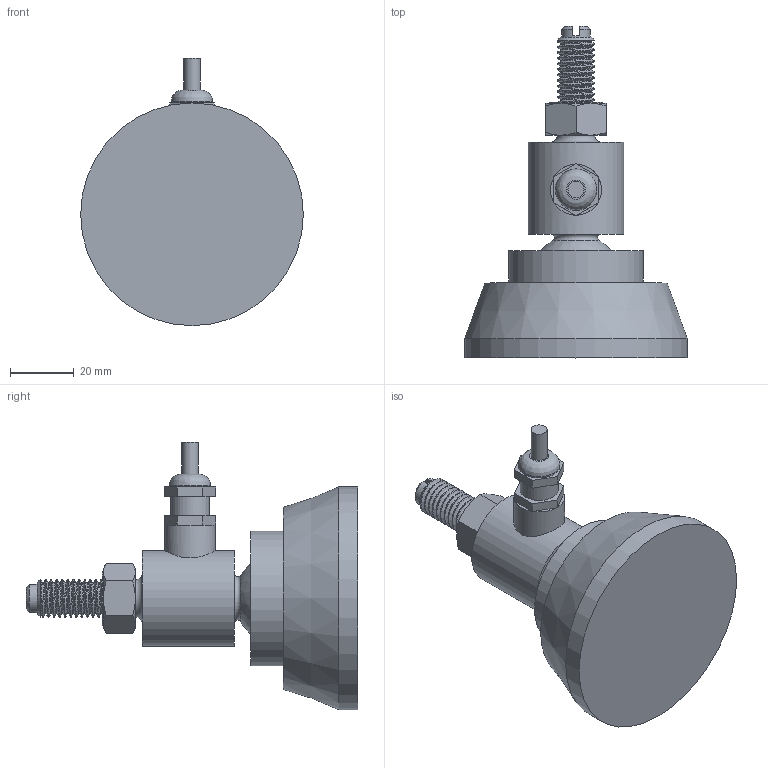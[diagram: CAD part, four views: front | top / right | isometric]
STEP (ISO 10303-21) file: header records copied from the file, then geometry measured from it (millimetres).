
FILE_DESCRIPTION(/* description */ (''),/* implementation_level */ '2;1');
FILE_NAME(/* name */ 'C:/Users/fardi/Dropbox/Anyload/Load Cell Models/3D Drawing/106/106MH-F/106MH-F-(0.5-1)t v3.step',/* time_stamp */ '2020-01-31T11:56:07-08:00',/* author */ (''),/* organization */ (''),/* preprocessor_version */ 'ST-DEVELOPER v18',/* originating_system */ 'Autodesk Translation Framework v8.12.0.6',/* authorisation */ '');
FILE_SCHEMA (('AUTOMOTIVE_DESIGN { 1 0 10303 214 3 1 1 }'));
Length unit declared in the file: millimetre
Products named in the file (3): 106MH-F-(0.5-1)t; 90591A181; Connector
Assembly tree (2 placements, depth 2):
  106MH-F-(0.5-1)t
    90591A181
    Connector
Bounding box: 70 x 104.3 x 84.03 mm (x, y, z)
Volume: 124125 mm3; surface area: 22419.1 mm2
Topology: 3 solids, 3 shells, 133 faces, 338 edges, 224 vertices
Faces by surface type: cylinder 61, plane 42, cone 22, bspline 5, torus 2, sphere 1
Full cylindrical faces by diameter (mm): 5.1 x1, 9 x1, 9.727 x4, 9.836 x16, 10 x1, 11.834 x17, 12 x8, 13 x1, 16 x1, 16.97 x1, 30 x1, 42.3 x1, 70 x1
Entity records: 9441 total; most frequent: CARTESIAN_POINT 6386, ORIENTED_EDGE 674, DIRECTION 548, EDGE_CURVE 337, VERTEX_POINT 224, AXIS2_PLACEMENT_3D 217, EDGE_LOOP 149, FACE_OUTER_BOUND 133
